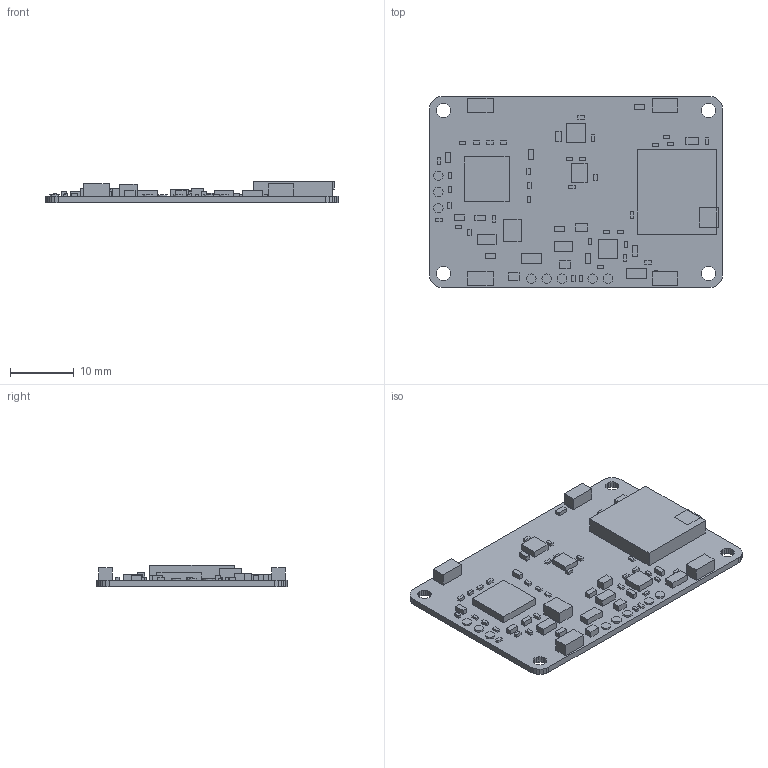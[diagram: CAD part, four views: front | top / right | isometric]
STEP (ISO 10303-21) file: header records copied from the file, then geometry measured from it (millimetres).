
FILE_DESCRIPTION(('AVO Performance Horse - montaje de la cincha (B-rep poliedrico)'),'2;1');
FILE_NAME('PCB_REV_D','2026-11-15T12:00:00',('AVO Performance Horse'),('AVO Performance Horse'),'avo_cad.py','avo_cad.py (numpy)','');
FILE_SCHEMA(('AUTOMOTIVE_DESIGN { 1 0 10303 214 1 1 1 1 }'));
Length unit declared in the file: millimetre
Products named in the file (1): PCB_REV_D
Bounding box: 46 x 30 x 3.4 mm (x, y, z)
Volume: 1992.2 mm3; surface area: 4121.6 mm2
Topology: 75 solids, 75 shells, 618 faces, 1404 edges, 936 vertices
Faces by surface type: plane 618
Entity records: 12167 total; most frequent: ORIENTED_EDGE 2808, VECTOR 1404, LINE 1404, EDGE_CURVE 1404, CARTESIAN_POINT 937, VERTEX_POINT 936, EDGE_LOOP 626, AXIS2_PLACEMENT_3D 619
